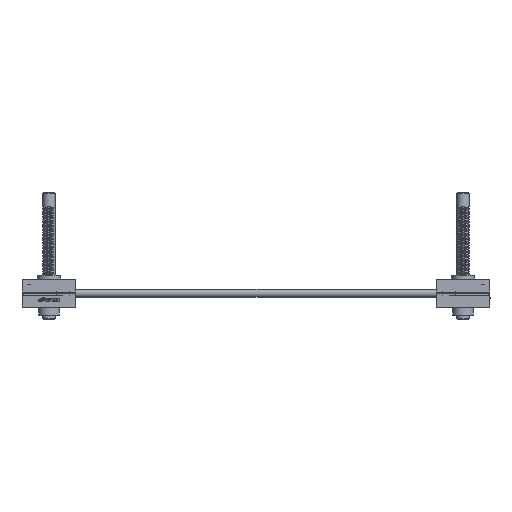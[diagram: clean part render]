
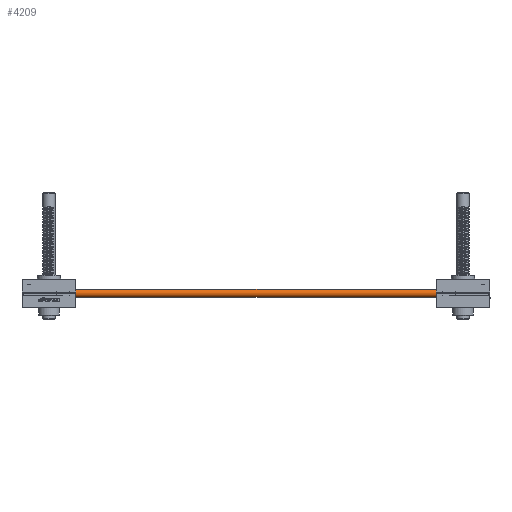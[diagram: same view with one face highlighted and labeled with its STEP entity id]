
A CAD part, left-side view. The second image highlights one B-rep face of the part: STEP entity #4209.
In plain terms, the highlighted cylindrical face has radius 5 mm (diameter 10 mm), a full revolution.
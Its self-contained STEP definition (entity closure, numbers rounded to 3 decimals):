
#4209=ADVANCED_FACE('',(#13258,#13259),#13260,.T.);
#13258=FACE_OUTER_BOUND('',#29070,.T.);
#13259=FACE_OUTER_BOUND('',#29071,.T.);
#13260=CYLINDRICAL_SURFACE('',#29072,5.0);
#29070=EDGE_LOOP('',(#49207));
#29071=EDGE_LOOP('',(#49208));
#29072=AXIS2_PLACEMENT_3D('',#49209,#49210,#49211);
#49207=ORIENTED_EDGE('',*,*,#109043,.T.);
#49208=ORIENTED_EDGE('',*,*,#109040,.T.);
#49209=CARTESIAN_POINT('',(0.0,0.0,511.0));
#49210=DIRECTION('',(0.0,0.0,-1.0));
#49211=DIRECTION('',(-1.0,0.0,0.0));
#109040=EDGE_CURVE('',#131228,#131228,#131229,.F.);
#109043=EDGE_CURVE('',#131234,#131234,#131235,.T.);
#131228=VERTEX_POINT('',#167440);
#131229=CIRCLE('',#167441,5.0);
#131234=VERTEX_POINT('',#167446);
#131235=CIRCLE('',#167447,5.0);
#167440=CARTESIAN_POINT('',(5.0,0.0,510.5));
#167441=AXIS2_PLACEMENT_3D('',#221488,#221489,#221490);
#167446=CARTESIAN_POINT('',(5.0,0.0,0.5));
#167447=AXIS2_PLACEMENT_3D('',#221497,#221498,#221499);
#221488=CARTESIAN_POINT('',(0.0,0.0,510.5));
#221489=DIRECTION('',(0.0,0.0,1.0));
#221490=DIRECTION('',(1.0,0.0,0.0));
#221497=CARTESIAN_POINT('',(0.0,0.0,0.5));
#221498=DIRECTION('',(0.0,0.0,1.0));
#221499=DIRECTION('',(1.0,0.0,0.0));
